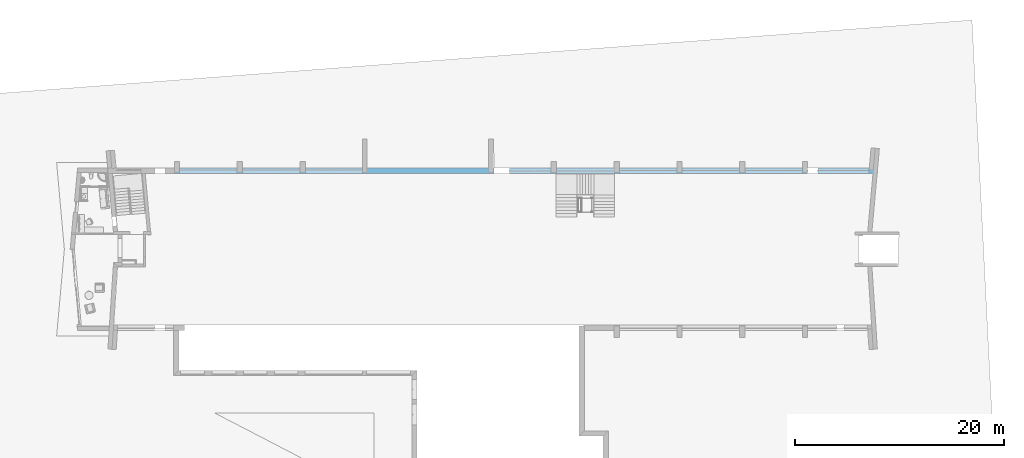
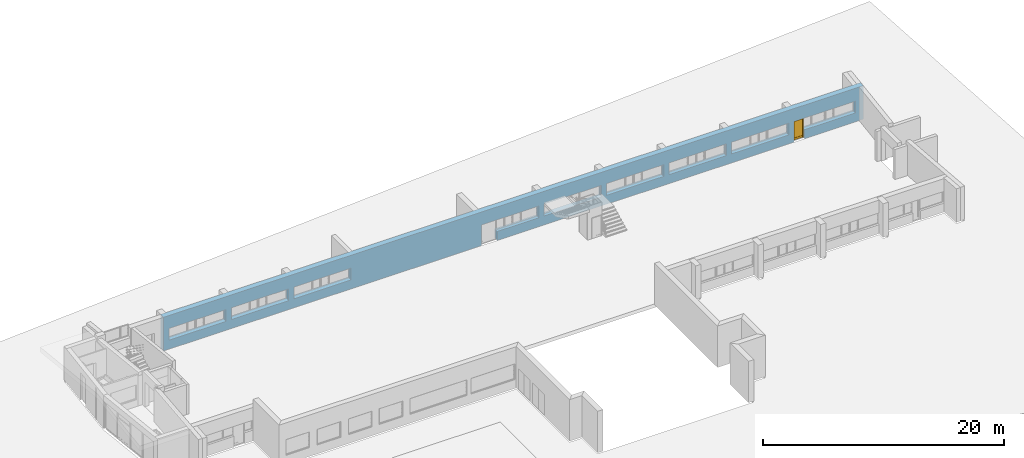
# One storey, part 10 of 36: 1 door, 20 openings, plus 1 element that does not belong to this part.
"""IFC2X3 building model written with IfcOpenShell, lengths in millimetres."""

from ifc_helpers import new_model, entity, si_unit, converted_unit, money_unit, direction, frame, origin_with_axes, place, context, subcontext, project, spatial, polyline, outline, extrude, open_shell, faceted_brep, surface_model, source, transform, mapped, material, material_list, layer, layer_set, layer_usage, type_object, element, fill, save


model = new_model("IFC2X3")

# Units and contexts
model_context = context("Model", 3, precision=1e-05, world=origin_with_axes(), true_north=direction((0.0, 1.0)))
body_context = subcontext(model_context, "Body", "Model", "MODEL_VIEW")
ifc_project = project(units=[si_unit("LENGTHUNIT", "METRE", prefix="MILLI"), si_unit("AREAUNIT", "SQUARE_METRE"), si_unit("VOLUMEUNIT", "CUBIC_METRE"), converted_unit("PLANEANGLEUNIT", "DEGREE", entity("IfcPlaneAngleMeasure", 0.0174532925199), si_unit("PLANEANGLEUNIT", "RADIAN"), dimensions=[0, 0, 0, 0, 0, 0, 0]), si_unit("SOLIDANGLEUNIT", "STERADIAN"), money_unit("USD"), converted_unit("TIMEUNIT", "Year", entity("IfcTimeMeasure", 31556926.0), si_unit("TIMEUNIT", "SECOND"), dimensions=[0, 0, 0, 0, 0, 0, 0]), si_unit("MASSUNIT", "GRAM"), si_unit("THERMODYNAMICTEMPERATUREUNIT", "DEGREE_CELSIUS"), si_unit("LUMINOUSINTENSITYUNIT", "LUMEN")], contexts=[model_context])

# Site, building, storey
site_placement = place(None, origin_with_axes())
site = spatial("IfcSite", under=ifc_project, at=site_placement, Name="Site", CompositionType="ELEMENT")
building_placement = place(site_placement, origin_with_axes())
building = spatial("IfcBuilding", under=site, at=building_placement, Name="Building", CompositionType="ELEMENT")
storey_placement = place(building_placement, frame((0.0, 0.0, -3400.0), z_axis=(0.0, 0.0, 1.0), x_axis=(1.0, 0.0, 0.0)))
storey = spatial("IfcBuildingStorey", under=building, at=storey_placement, Name="1KORRUS", CompositionType="ELEMENT", Elevation=-3400.0)

# Wall, openings, door
ifc_material_1 = material(Name="Olemasolevad seinad tellis, uus viimistlus")
ifc_layer = layer(ifc_material_1, 500.0, ventilated="UNKNOWN")
ifc_layer_set = layer_set([ifc_layer], Name="Olemasolevad seinad tellis, uus viimistlus 500")
ifc_layer_usage = layer_usage(ifc_layer_set, "AXIS2", "POSITIVE", -100.0)
wall_type = type_object("IfcWallType", Name="Olemasolevad seinad tellis, uus viimistlus 500", PredefinedType="NOTDEFINED")
wall_placement = place(storey_placement, frame((-48393.8274049, -5039.6041088, 0.0), z_axis=(0.0, 0.0, 1.0), x_axis=(1.0, 0.0, 0.0)))
wall = element("IfcWallStandardCase", 1, at=wall_placement, inside=storey, type_object=wall_type, material=ifc_layer_usage, Name="VS1", ObjectType="VS1", context=body_context, shape_type="SweptSolid", body=[
    extrude(outline(polyline([(0.0, -100.0), (67149.8194303, -100.0), (67149.8194303, 400.0), (0.0, 400.0), (0.0, -100.0)])), origin_with_axes(), (0.0, 0.0, 1.0), 3400.0),
])
opening_1_placement = place(wall_placement, frame((1878.53070154, 0.0, 900.0), z_axis=(0.0, 0.0, 1.0), x_axis=(1.0, 0.0, 0.0)))
element("IfcOpeningElement", 2, at=opening_1_placement, cuts=wall, Name="Olemasolevad aknad jäävad", context=body_context, shape_type="SweptSolid", body=[
    extrude(outline(polyline([(-1375.0, 1200.0), (-1375.0, 0.0), (1375.0, 0.0), (1375.0, 1200.0), (-1375.0, 1200.0)])), frame((0.0, 250.0, 0.0), z_axis=(0.0, -1.0, 0.0), x_axis=(1.0, 0.0, 0.0)), (0.0, 0.0, 1.0), 850.0),
    extrude(outline(polyline([(-1375.0, 0.0), (-1375.0, -1200.0), (1375.0, -1200.0), (1375.0, 0.0), (-1375.0, 0.0)])), frame((0.0, 250.0, 0.0), z_axis=(0.0, 1.0, 0.0), x_axis=(1.0, 0.0, 0.0)), (0.0, 0.0, 1.0), 650.0),
])
opening_2_placement = place(wall_placement, frame((7878.53070154, 0.0, 900.0), z_axis=(0.0, 0.0, 1.0), x_axis=(1.0, 0.0, 0.0)))
element("IfcOpeningElement", 3, at=opening_2_placement, cuts=wall, Name="Olemasolevad aknad jäävad", context=body_context, shape_type="SweptSolid", body=[
    extrude(outline(polyline([(-1375.0, 1200.0), (-1375.0, 0.0), (1375.0, 0.0), (1375.0, 1200.0), (-1375.0, 1200.0)])), frame((0.0, 250.0, 0.0), z_axis=(0.0, -1.0, 0.0), x_axis=(1.0, 0.0, 0.0)), (0.0, 0.0, 1.0), 850.0),
    extrude(outline(polyline([(-1375.0, 0.0), (-1375.0, -1200.0), (1375.0, -1200.0), (1375.0, 0.0), (-1375.0, 0.0)])), frame((0.0, 250.0, 0.0), z_axis=(0.0, 1.0, 0.0), x_axis=(1.0, 0.0, 0.0)), (0.0, 0.0, 1.0), 650.0),
])
opening_3_placement = place(wall_placement, frame((13878.5307015, 0.0, 900.0), z_axis=(0.0, 0.0, 1.0), x_axis=(1.0, 0.0, 0.0)))
element("IfcOpeningElement", 4, at=opening_3_placement, cuts=wall, Name="Olemasolevad aknad jäävad", context=body_context, shape_type="SweptSolid", body=[
    extrude(outline(polyline([(-1375.0, 1200.0), (-1375.0, 0.0), (1375.0, 0.0), (1375.0, 1200.0), (-1375.0, 1200.0)])), frame((0.0, 250.0, 0.0), z_axis=(0.0, -1.0, 0.0), x_axis=(1.0, 0.0, 0.0)), (0.0, 0.0, 1.0), 850.0),
    extrude(outline(polyline([(-1375.0, 0.0), (-1375.0, -1200.0), (1375.0, -1200.0), (1375.0, 0.0), (-1375.0, 0.0)])), frame((0.0, 250.0, 0.0), z_axis=(0.0, 1.0, 0.0), x_axis=(1.0, 0.0, 0.0)), (0.0, 0.0, 1.0), 650.0),
])
opening_4_placement = place(wall_placement, frame((4628.53070154, 0.0, 900.0), z_axis=(0.0, 0.0, 1.0), x_axis=(1.0, 0.0, 0.0)))
element("IfcOpeningElement", 5, at=opening_4_placement, cuts=wall, Name="Olemasolevad aknad jäävad", context=body_context, shape_type="SweptSolid", body=[
    extrude(outline(polyline([(1375.0, 1200.0), (-1375.0, 1200.0), (-1375.0, 0.0), (1375.0, 0.0), (1375.0, 1200.0)])), frame((0.0, 250.0, 0.0), z_axis=(0.0, -1.0, 0.0), x_axis=(1.0, 0.0, 0.0)), (0.0, 0.0, 1.0), 850.0),
    extrude(outline(polyline([(1375.0, 0.0), (-1375.0, 0.0), (-1375.0, -1200.0), (1375.0, -1200.0), (1375.0, 0.0)])), frame((0.0, 250.0, 0.0), z_axis=(0.0, 1.0, 0.0), x_axis=(1.0, 0.0, 0.0)), (0.0, 0.0, 1.0), 650.0),
])
opening_5_placement = place(wall_placement, frame((10628.5307015, 0.0, 900.0), z_axis=(0.0, 0.0, 1.0), x_axis=(1.0, 0.0, 0.0)))
element("IfcOpeningElement", 6, at=opening_5_placement, cuts=wall, Name="Olemasolevad aknad jäävad", context=body_context, shape_type="SweptSolid", body=[
    extrude(outline(polyline([(1375.0, 1200.0), (-1375.0, 1200.0), (-1375.0, 0.0), (1375.0, 0.0), (1375.0, 1200.0)])), frame((0.0, 250.0, 0.0), z_axis=(0.0, -1.0, 0.0), x_axis=(1.0, 0.0, 0.0)), (0.0, 0.0, 1.0), 850.0),
    extrude(outline(polyline([(1375.0, 0.0), (-1375.0, 0.0), (-1375.0, -1200.0), (1375.0, -1200.0), (1375.0, 0.0)])), frame((0.0, 250.0, 0.0), z_axis=(0.0, 1.0, 0.0), x_axis=(1.0, 0.0, 0.0)), (0.0, 0.0, 1.0), 650.0),
])
opening_6_placement = place(wall_placement, frame((16616.9651775, 0.0, 900.0), z_axis=(0.0, 0.0, 1.0), x_axis=(1.0, 0.0, 0.0)))
element("IfcOpeningElement", 7, at=opening_6_placement, cuts=wall, Name="Olemasolevad aknad jäävad", context=body_context, shape_type="SweptSolid", body=[
    extrude(outline(polyline([(1375.0, 1200.0), (-1375.0, 1200.0), (-1375.0, 0.0), (1375.0, 0.0), (1375.0, 1200.0)])), frame((0.0, 250.0, 0.0), z_axis=(0.0, -1.0, 0.0), x_axis=(1.0, 0.0, 0.0)), (0.0, 0.0, 1.0), 850.0),
    extrude(outline(polyline([(1375.0, 0.0), (-1375.0, 0.0), (-1375.0, -1200.0), (1375.0, -1200.0), (1375.0, 0.0)])), frame((0.0, 250.0, 0.0), z_axis=(0.0, 1.0, 0.0), x_axis=(1.0, 0.0, 0.0)), (0.0, 0.0, 1.0), 650.0),
])
opening_7_placement = place(wall_placement, frame((34803.5307015, 0.0, 900.0), z_axis=(0.0, 0.0, 1.0), x_axis=(1.0, 0.0, 0.0)))
element("IfcOpeningElement", 8, at=opening_7_placement, cuts=wall, Name="Olemasolevad aknad jäävad", context=body_context, shape_type="SweptSolid", body=[
    extrude(outline(polyline([(1200.0, 0.0), (-1200.0, 0.0), (-1200.0, -1200.0), (1200.0, -1200.0), (1200.0, 0.0)])), frame((0.0, 100.0, 0.0), z_axis=(0.0, 1.0, 0.0), x_axis=(1.0, 0.0, 0.0)), (0.0, 0.0, 1.0), 800.0),
    extrude(outline(polyline([(1200.0, 1200.0), (-1200.0, 1200.0), (-1200.0, 0.0), (1200.0, 0.0), (1200.0, 1200.0)])), frame((0.0, 100.0, 0.0), z_axis=(0.0, -1.0, 0.0), x_axis=(1.0, 0.0, 0.0)), (0.0, 0.0, 1.0), 700.0),
])
opening_8_placement = place(wall_placement, frame((40625.1633636, 0.0, 900.0), z_axis=(0.0, 0.0, 1.0), x_axis=(1.0, 0.0, 0.0)))
element("IfcOpeningElement", 9, at=opening_8_placement, cuts=wall, Name="Olemasolevad aknad jäävad", context=body_context, shape_type="SweptSolid", body=[
    extrude(outline(polyline([(1400.0, 0.0), (-1400.0, 0.0), (-1400.0, -1200.0), (1400.0, -1200.0), (1400.0, 0.0)])), frame((0.0, 100.0, 0.0), z_axis=(0.0, 1.0, 0.0), x_axis=(1.0, 0.0, 0.0)), (0.0, 0.0, 1.0), 800.0),
    extrude(outline(polyline([(1400.0, 1200.0), (-1400.0, 1200.0), (-1400.0, 0.0), (1400.0, 0.0), (1400.0, 1200.0)])), frame((0.0, 100.0, 0.0), z_axis=(0.0, -1.0, 0.0), x_axis=(1.0, 0.0, 0.0)), (0.0, 0.0, 1.0), 700.0),
])
opening_9_placement = place(wall_placement, frame((37871.3218818, 0.0, 900.0), z_axis=(0.0, 0.0, 1.0), x_axis=(1.0, 0.0, 0.0)))
element("IfcOpeningElement", 10, at=opening_9_placement, cuts=wall, Name="Olemasolevad aknad jäävad", context=body_context, shape_type="SweptSolid", body=[
    extrude(outline(polyline([(-1367.791, 0.0), (-1367.791, -1200.0), (1367.791, -1200.0), (1367.791, 0.0), (-1367.791, 0.0)])), frame((0.0, 150.0, 0.0), z_axis=(0.0, 1.0, 0.0), x_axis=(1.0, 0.0, 0.0)), (0.0, 0.0, 1.0), 750.0),
    extrude(outline(polyline([(-1367.791, 1200.0), (-1367.791, 0.0), (1367.791, 0.0), (1367.791, 1200.0), (-1367.791, 1200.0)])), frame((0.0, 150.0, 0.0), z_axis=(0.0, -1.0, 0.0), x_axis=(1.0, 0.0, 0.0)), (0.0, 0.0, 1.0), 750.0),
])
opening_10_placement = place(wall_placement, frame((46628.5307015, 0.0, 900.0), z_axis=(0.0, 0.0, 1.0), x_axis=(1.0, 0.0, 0.0)))
element("IfcOpeningElement", 11, at=opening_10_placement, cuts=wall, Name="Olemasolevad aknad jäävad", context=body_context, shape_type="SweptSolid", body=[
    extrude(outline(polyline([(1375.0, 1200.0), (-1375.0, 1200.0), (-1375.0, 0.0), (1375.0, 0.0), (1375.0, 1200.0)])), frame((0.0, 150.0, 0.0), z_axis=(0.0, -1.0, 0.0), x_axis=(1.0, 0.0, 0.0)), (0.0, 0.0, 1.0), 750.0),
    extrude(outline(polyline([(1375.0, 0.0), (-1375.0, 0.0), (-1375.0, -1200.0), (1375.0, -1200.0), (1375.0, 0.0)])), frame((0.0, 150.0, 0.0), z_axis=(0.0, 1.0, 0.0), x_axis=(1.0, 0.0, 0.0)), (0.0, 0.0, 1.0), 750.0),
])
opening_11_placement = place(wall_placement, frame((43878.5307015, 0.0, 900.0), z_axis=(0.0, 0.0, 1.0), x_axis=(1.0, 0.0, 0.0)))
element("IfcOpeningElement", 12, at=opening_11_placement, cuts=wall, Name="Olemasolevad aknad jäävad", context=body_context, shape_type="SweptSolid", body=[
    extrude(outline(polyline([(-1375.0, 1200.0), (-1375.0, 0.0), (1375.0, 0.0), (1375.0, 1200.0), (-1375.0, 1200.0)])), frame((0.0, 200.0, 0.0), z_axis=(0.0, -1.0, 0.0), x_axis=(1.0, 0.0, 0.0)), (0.0, 0.0, 1.0), 800.0),
    extrude(outline(polyline([(-1375.0, 0.0), (-1375.0, -1200.0), (1375.0, -1200.0), (1375.0, 0.0), (-1375.0, 0.0)])), frame((0.0, 200.0, 0.0), z_axis=(0.0, 1.0, 0.0), x_axis=(1.0, 0.0, 0.0)), (0.0, 0.0, 1.0), 700.0),
])
opening_12_placement = place(wall_placement, frame((52635.3834465, 0.0, 900.0), z_axis=(0.0, 0.0, 1.0), x_axis=(1.0, 0.0, 0.0)))
element("IfcOpeningElement", 13, at=opening_12_placement, cuts=wall, Name="Olemasolevad aknad jäävad", context=body_context, shape_type="SweptSolid", body=[
    extrude(outline(polyline([(1376.809, 1200.0), (-1376.809, 1200.0), (-1376.809, 0.0), (1376.809, 0.0), (1376.809, 1200.0)])), frame((0.0, 150.0, 0.0), z_axis=(0.0, -1.0, 0.0), x_axis=(1.0, 0.0, 0.0)), (0.0, 0.0, 1.0), 750.0),
    extrude(outline(polyline([(1376.809, 0.0), (-1376.809, 0.0), (-1376.809, -1200.0), (1376.809, -1200.0), (1376.809, 0.0)])), frame((0.0, 150.0, 0.0), z_axis=(0.0, 1.0, 0.0), x_axis=(1.0, 0.0, 0.0)), (0.0, 0.0, 1.0), 750.0),
])
opening_13_placement = place(wall_placement, frame((49883.9987013, 0.0, 900.0), z_axis=(0.0, 0.0, 1.0), x_axis=(1.0, 0.0, 0.0)))
element("IfcOpeningElement", 14, at=opening_13_placement, cuts=wall, Name="Olemasolevad aknad jäävad", context=body_context, shape_type="SweptSolid", body=[
    extrude(outline(polyline([(-1375.0, 1200.0), (-1375.0, 0.0), (1375.0, 0.0), (1375.0, 1200.0), (-1375.0, 1200.0)])), frame((0.0, 200.0, 0.0), z_axis=(0.0, -1.0, 0.0), x_axis=(1.0, 0.0, 0.0)), (0.0, 0.0, 1.0), 800.0),
    extrude(outline(polyline([(-1375.0, 0.0), (-1375.0, -1200.0), (1375.0, -1200.0), (1375.0, 0.0), (-1375.0, 0.0)])), frame((0.0, 200.0, 0.0), z_axis=(0.0, 1.0, 0.0), x_axis=(1.0, 0.0, 0.0)), (0.0, 0.0, 1.0), 700.0),
])
opening_14_placement = place(wall_placement, frame((58631.8843372, 0.0, 900.0), z_axis=(0.0, 0.0, 1.0), x_axis=(1.0, 0.0, 0.0)))
element("IfcOpeningElement", 15, at=opening_14_placement, cuts=wall, Name="Olemasolevad aknad jäävad", context=body_context, shape_type="SweptSolid", body=[
    extrude(outline(polyline([(1371.646, 1200.0), (-1371.646, 1200.0), (-1371.646, 0.0), (1371.646, 0.0), (1371.646, 1200.0)])), frame((0.0, 150.0, 0.0), z_axis=(0.0, -1.0, 0.0), x_axis=(1.0, 0.0, 0.0)), (0.0, 0.0, 1.0), 750.0),
    extrude(outline(polyline([(1371.646, 0.0), (-1371.646, 0.0), (-1371.646, -1200.0), (1371.646, -1200.0), (1371.646, 0.0)])), frame((0.0, 150.0, 0.0), z_axis=(0.0, 1.0, 0.0), x_axis=(1.0, 0.0, 0.0)), (0.0, 0.0, 1.0), 750.0),
])
opening_15_placement = place(wall_placement, frame((55886.6217615, 0.0, 900.0), z_axis=(0.0, 0.0, 1.0), x_axis=(1.0, 0.0, 0.0)))
element("IfcOpeningElement", 16, at=opening_15_placement, cuts=wall, Name="Olemasolevad aknad jäävad", context=body_context, shape_type="SweptSolid", body=[
    extrude(outline(polyline([(-1375.0, 1200.0), (-1375.0, 0.0), (1375.0, 0.0), (1375.0, 1200.0), (-1375.0, 1200.0)])), frame((0.0, 200.0, 0.0), z_axis=(0.0, -1.0, 0.0), x_axis=(1.0, 0.0, 0.0)), (0.0, 0.0, 1.0), 800.0),
    extrude(outline(polyline([(-1375.0, 0.0), (-1375.0, -1200.0), (1375.0, -1200.0), (1375.0, 0.0), (-1375.0, 0.0)])), frame((0.0, 200.0, 0.0), z_axis=(0.0, 1.0, 0.0), x_axis=(1.0, 0.0, 0.0)), (0.0, 0.0, 1.0), 700.0),
])
opening_16_placement = place(wall_placement, frame((64995.2517085, 0.0, 900.0), z_axis=(0.0, 0.0, 1.0), x_axis=(1.0, 0.0, 0.0)))
element("IfcOpeningElement", 17, at=opening_16_placement, cuts=wall, Name="Olemasolevad aknad jäävad", context=body_context, shape_type="SweptSolid", body=[
    extrude(outline(polyline([(1375.0, 1200.0), (-1375.0, 1200.0), (-1375.0, 0.0), (1375.0, 0.0), (1375.0, 1200.0)])), frame((0.0, 150.0, 0.0), z_axis=(0.0, -1.0, 0.0), x_axis=(1.0, 0.0, 0.0)), (0.0, 0.0, 1.0), 750.0),
    extrude(outline(polyline([(1375.0, 0.0), (-1375.0, 0.0), (-1375.0, -1200.0), (1375.0, -1200.0), (1375.0, 0.0)])), frame((0.0, 150.0, 0.0), z_axis=(0.0, 1.0, 0.0), x_axis=(1.0, 0.0, 0.0)), (0.0, 0.0, 1.0), 750.0),
])
opening_17_placement = place(wall_placement, frame((32810.8244307, 0.0, 900.0), z_axis=(0.0, 0.0, 1.0), x_axis=(1.0, 0.0, 0.0)))
element("IfcOpeningElement", 18, at=opening_17_placement, cuts=wall, Name="Olemasolevad aknad jäävad", context=body_context, shape_type="SweptSolid", body=[
    extrude(outline(polyline([(792.706, 0.0), (-792.706, 0.0), (-792.706, -1200.0), (792.706, -1200.0), (792.706, 0.0)])), frame((0.0, 100.0, 0.0), z_axis=(0.0, 1.0, 0.0), x_axis=(1.0, 0.0, 0.0)), (0.0, 0.0, 1.0), 800.0),
    extrude(outline(polyline([(792.706, 1200.0), (-792.706, 1200.0), (-792.706, 0.0), (792.706, 0.0), (792.706, 1200.0)])), frame((0.0, 100.0, 0.0), z_axis=(0.0, -1.0, 0.0), x_axis=(1.0, 0.0, 0.0)), (0.0, 0.0, 1.0), 700.0),
])
opening_18_placement = place(wall_placement, frame((62561.891205, 0.0, 900.0), z_axis=(0.0, 0.0, 1.0), x_axis=(1.0, 0.0, 0.0)))
element("IfcOpeningElement", 19, at=opening_18_placement, cuts=wall, Name="Olemasolevad aknad jäävad", context=body_context, shape_type="SweptSolid", body=[
    extrude(outline(polyline([(1058.361, 1200.0), (-1058.361, 1200.0), (-1058.361, 0.0), (1058.361, 0.0), (1058.361, 1200.0)])), frame((0.0, 150.0, 0.0), z_axis=(0.0, -1.0, 0.0), x_axis=(1.0, 0.0, 0.0)), (0.0, 0.0, 1.0), 750.0),
    extrude(outline(polyline([(1058.361, 0.0), (-1058.361, 0.0), (-1058.361, -1200.0), (1058.361, -1200.0), (1058.361, 0.0)])), frame((0.0, 150.0, 0.0), z_axis=(0.0, 1.0, 0.0), x_axis=(1.0, 0.0, 0.0)), (0.0, 0.0, 1.0), 750.0),
])
opening_19_placement = place(wall_placement, frame((61003.5307015, 0.0, -4.66441168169), z_axis=(0.0, 0.0, 1.0), x_axis=(1.0, 0.0, 0.0)))
opening_19 = element("IfcOpeningElement", 20, at=opening_19_placement, cuts=wall, Name="ava", context=body_context, shape_type="SweptSolid", body=[
    extrude(outline(polyline([(-500.0, 2100.0), (-500.0, 0.0), (500.0, 0.0), (500.0, 2100.0), (-500.0, 2100.0)])), frame((0.0, 200.0, 0.0), z_axis=(0.0, 1.0, 0.0), x_axis=(-1.0, 0.0, 0.0)), (0.0, 0.0, -1.0), 800.0),
    extrude(outline(polyline([(-500.0, 0.0), (-500.0, -2100.0), (500.0, -2100.0), (500.0, 0.0), (-500.0, 0.0)])), frame((0.0, 200.0, 0.0), z_axis=(0.0, -1.0, 0.0), x_axis=(-1.0, 0.0, 0.0)), (0.0, 0.0, -1.0), 700.0),
])
opening_20_placement = place(wall_placement, frame((31268.1181599, 0.0, 0.0), z_axis=(0.0, 0.0, 1.0), x_axis=(1.0, 0.0, 0.0)))
element("IfcOpeningElement", 21, at=opening_20_placement, cuts=wall, Name="ava", context=body_context, shape_type="SweptSolid", body=[
    extrude(outline(polyline([(-750.0, 2100.0), (-750.0, 0.0), (750.0, 0.0), (750.0, 2100.0), (-750.0, 2100.0)])), frame((0.0, 200.0, 0.0), z_axis=(0.0, -1.0, 0.0), x_axis=(1.0, 0.0, 0.0)), (0.0, 0.0, 1.0), 800.0),
    extrude(outline(polyline([(-750.0, 0.0), (-750.0, -2100.0), (750.0, -2100.0), (750.0, 0.0), (-750.0, 0.0)])), frame((0.0, 200.0, 0.0), z_axis=(0.0, 1.0, 0.0), x_axis=(1.0, 0.0, 0.0)), (0.0, 0.0, 1.0), 700.0),
])
ifc_material_2 = material(Name="Background")
ifc_material_list = material_list([ifc_material_2])
door_style = type_object("IfcDoorStyle", Name="Door 19", ConstructionType="NOTDEFINED", OperationType="SINGLE_SWING_LEFT", ParameterTakesPrecedence=False, Sizeable=False)
shared_shape = source(origin_with_axes(), body_context, "Body", "SurfaceModel", [
    faceted_brep([(460.0, -240.0, 0.0), (460.0, -315.0, 0.0), (460.0, -315.0, 2060.0), (460.0, -240.0, 2060.0), (472.0, -240.0, 0.0), (472.0, -200.0, 0.0), (500.0, -200.0, 0.0), (500.0, -315.0, 0.0), (500.0, -315.0, 2060.0), (472.0, -240.0, 2060.0), (500.0, -200.0, 2060.0), (472.0, -200.0, 2060.0)], [[[0, 1, 2, 3]], [[4, 5, 6, 7, 1, 0]], [[2, 1, 7, 8]], [[9, 3, 2, 8, 10, 11]], [[9, 4, 0, 3]], [[11, 5, 4, 9]], [[11, 10, 6, 5]], [[7, 6, 10, 8]]]),
    faceted_brep([(-472.0, -240.0, 2060.0), (-472.0, -200.0, 2060.0), (-500.0, -200.0, 2060.0), (-500.0, -315.0, 2060.0), (-460.0, -315.0, 2060.0), (-460.0, -240.0, 2060.0), (-472.0, -240.0, 0.0), (-472.0, -200.0, 0.0), (-500.0, -200.0, 0.0), (-500.0, -315.0, 0.0), (-460.0, -315.0, 0.0), (-460.0, -240.0, 0.0)], [[[0, 1, 2, 3, 4, 5]], [[0, 6, 7, 1]], [[7, 8, 2, 1]], [[3, 2, 8, 9]], [[4, 3, 9, 10]], [[5, 4, 10, 11]], [[5, 11, 6, 0]], [[6, 11, 10, 9, 8, 7]]]),
    faceted_brep([(472.0, -200.0, 2072.0), (-472.0, -200.0, 2072.0), (-472.0, -200.0, 2060.0), (-500.0, -200.0, 2060.0), (-500.0, -200.0, 2100.0), (500.0, -200.0, 2100.0), (500.0, -200.0, 2060.0), (472.0, -200.0, 2060.0), (472.0, -240.0, 2072.0), (-472.0, -240.0, 2072.0), (-472.0, -240.0, 2060.0), (-460.0, -240.0, 2060.0), (-460.0, -315.0, 2060.0), (-500.0, -315.0, 2060.0), (-500.0, -315.0, 2100.0), (500.0, -315.0, 2100.0), (500.0, -315.0, 2060.0), (472.0, -240.0, 2060.0), (460.0, -315.0, 2060.0), (460.0, -240.0, 2060.0)], [[[0, 1, 2, 3, 4, 5, 6, 7]], [[0, 8, 9, 1]], [[1, 9, 10, 2]], [[10, 11, 12, 13, 3, 2]], [[14, 4, 3, 13]], [[15, 5, 4, 14]], [[16, 6, 5, 15]], [[17, 7, 6, 16, 18, 19]], [[7, 17, 8, 0]], [[10, 9, 8, 17, 19, 11]], [[19, 18, 12, 11]], [[13, 12, 18, 16, 15, 14]]]),
    faceted_brep([(-472.0, -200.0, 200.0), (-372.0, -200.0, 200.0), (-372.0, -240.0, 200.0), (-472.0, -240.0, 200.0), (-472.0, -200.0, 1972.0), (-372.0, -200.0, 1972.0), (-372.0, -240.0, 1972.0), (-472.0, -240.0, 1972.0)], [[[0, 1, 2, 3]], [[0, 4, 5, 1]], [[1, 5, 6, 2]], [[3, 2, 6, 7]], [[4, 0, 3, 7]], [[5, 4, 7, 6]]]),
    faceted_brep([(472.0, -200.0, 200.0), (472.0, -200.0, 1972.0), (472.0, -240.0, 1972.0), (472.0, -240.0, 200.0), (372.0, -200.0, 200.0), (372.0, -200.0, 1972.0), (372.0, -240.0, 1972.0), (372.0, -240.0, 200.0)], [[[0, 1, 2, 3]], [[0, 4, 5, 1]], [[1, 5, 6, 2]], [[3, 2, 6, 7]], [[4, 0, 3, 7]], [[5, 4, 7, 6]]]),
    faceted_brep([(-472.0, -200.0, 0.0), (472.0, -200.0, 0.0), (472.0, -240.0, 0.0), (-472.0, -240.0, 0.0), (-472.0, -200.0, 200.0), (-372.0, -200.0, 200.0), (372.0, -200.0, 200.0), (472.0, -200.0, 200.0), (472.0, -240.0, 200.0), (372.0, -240.0, 200.0), (-372.0, -240.0, 200.0), (-472.0, -240.0, 200.0)], [[[0, 1, 2, 3]], [[0, 4, 5, 6, 7, 1]], [[1, 7, 8, 2]], [[3, 2, 8, 9, 10, 11]], [[4, 0, 3, 11]], [[5, 4, 11, 10]], [[6, 5, 10, 9]], [[7, 6, 9, 8]]]),
    faceted_brep([(-472.0, -200.0, 2072.0), (-472.0, -200.0, 1972.0), (-472.0, -240.0, 1972.0), (-472.0, -240.0, 2072.0), (472.0, -200.0, 2072.0), (472.0, -200.0, 1972.0), (372.0, -200.0, 1972.0), (-372.0, -200.0, 1972.0), (-372.0, -240.0, 1972.0), (372.0, -240.0, 1972.0), (472.0, -240.0, 1972.0), (472.0, -240.0, 2072.0)], [[[0, 1, 2, 3]], [[0, 4, 5, 6, 7, 1]], [[1, 7, 8, 2]], [[3, 2, 8, 9, 10, 11]], [[4, 0, 3, 11]], [[5, 4, 11, 10]], [[6, 5, 10, 9]], [[7, 6, 9, 8]]]),
    surface_model("IfcShellBasedSurfaceModel", [(-372.0, -214.0, 200.0), (-372.0, -214.0, 1972.0), (372.0, -214.0, 1972.0), (372.0, -214.0, 200.0)], [open_shell([[[0, 1, 2, 3]]])]),
    surface_model("IfcShellBasedSurfaceModel", [(-372.0, -226.0, 200.0), (372.0, -226.0, 200.0), (372.0, -226.0, 1972.0), (-372.0, -226.0, 1972.0)], [open_shell([[[0, 1, 2, 3]]])]),
])
door_placement = place(opening_19_placement, frame((-500.0, 0.0, 0.0), z_axis=(0.0, 0.0, 1.0), x_axis=(1.0, 0.0, 0.0)))
door = element("IfcDoor", 22, at=door_placement, inside=storey, type_object=door_style, material=ifc_material_list, Name="ava", ObjectType="door", OverallHeight=2100.0, OverallWidth=1000.0, context=body_context, shape_type="MappedRepresentation", body=[
    mapped(shared_shape, transform((500.0, 400.0, 0.0))),
])
fill(opening_19, door)

save(model, "model.ifc")
